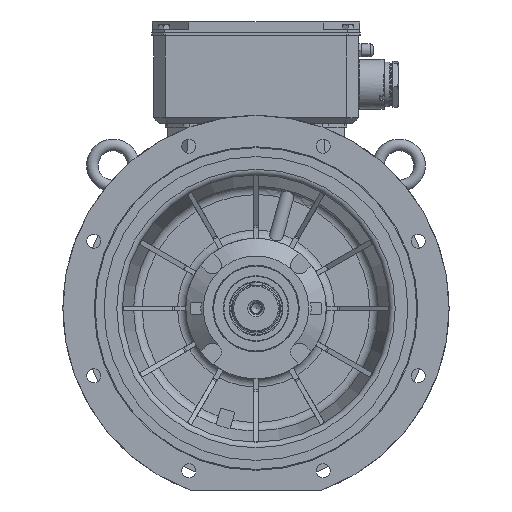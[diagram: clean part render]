
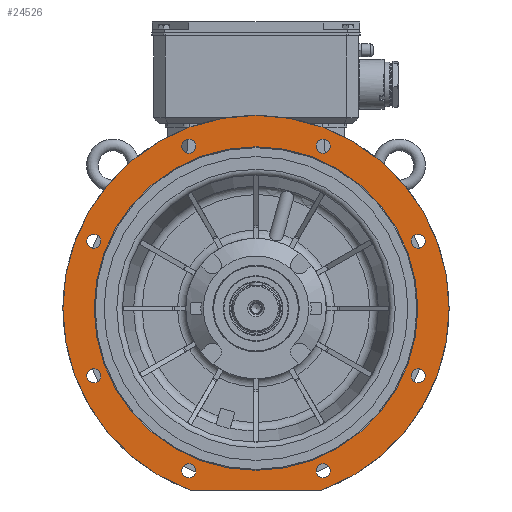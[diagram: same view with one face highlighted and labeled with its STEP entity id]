
A CAD part, front view. The second image highlights one B-rep face of the part: STEP entity #24526.
In plain terms, the highlighted planar face has unit normal (0, -1, 0).
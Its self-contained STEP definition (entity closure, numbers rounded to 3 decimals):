
#2150=LINE('',#50525,#4184);
#4184=VECTOR('',#41520,1000.);
#9266=ORIENTED_EDGE('',*,*,#14724,.F.);
#9267=ORIENTED_EDGE('',*,*,#14725,.F.);
#9268=ORIENTED_EDGE('',*,*,#14726,.F.);
#9269=ORIENTED_EDGE('',*,*,#14727,.F.);
#9270=ORIENTED_EDGE('',*,*,#14728,.F.);
#9271=ORIENTED_EDGE('',*,*,#14729,.F.);
#9272=ORIENTED_EDGE('',*,*,#14730,.F.);
#9273=ORIENTED_EDGE('',*,*,#14731,.F.);
#9274=ORIENTED_EDGE('',*,*,#14723,.F.);
#9275=ORIENTED_EDGE('',*,*,#14732,.T.);
#9276=ORIENTED_EDGE('',*,*,#14733,.F.);
#9277=ORIENTED_EDGE('',*,*,#14734,.T.);
#9278=ORIENTED_EDGE('',*,*,#14735,.F.);
#14723=EDGE_CURVE('',#17649,#17649,#19132,.T.);
#14724=EDGE_CURVE('',#17650,#17650,#19133,.T.);
#14725=EDGE_CURVE('',#17651,#17651,#19134,.T.);
#14726=EDGE_CURVE('',#17652,#17652,#19135,.T.);
#14727=EDGE_CURVE('',#17653,#17653,#19136,.T.);
#14728=EDGE_CURVE('',#17654,#17654,#19137,.T.);
#14729=EDGE_CURVE('',#17655,#17655,#19138,.T.);
#14730=EDGE_CURVE('',#17656,#17656,#19139,.T.);
#14731=EDGE_CURVE('',#17657,#17657,#19140,.T.);
#14732=EDGE_CURVE('',#17658,#17659,#19141,.F.);
#14733=EDGE_CURVE('',#17660,#17659,#2150,.T.);
#14734=EDGE_CURVE('',#17660,#17661,#19142,.F.);
#14735=EDGE_CURVE('',#17658,#17661,#19143,.T.);
#17649=VERTEX_POINT('',#50504);
#17650=VERTEX_POINT('',#50507);
#17651=VERTEX_POINT('',#50509);
#17652=VERTEX_POINT('',#50511);
#17653=VERTEX_POINT('',#50513);
#17654=VERTEX_POINT('',#50515);
#17655=VERTEX_POINT('',#50517);
#17656=VERTEX_POINT('',#50519);
#17657=VERTEX_POINT('',#50521);
#17658=VERTEX_POINT('',#50523);
#17659=VERTEX_POINT('',#50524);
#17660=VERTEX_POINT('',#50526);
#17661=VERTEX_POINT('',#50528);
#19132=CIRCLE('',#36384,276.4);
#19133=CIRCLE('',#36386,12.);
#19134=CIRCLE('',#36387,12.);
#19135=CIRCLE('',#36388,12.);
#19136=CIRCLE('',#36389,12.);
#19137=CIRCLE('',#36390,12.);
#19138=CIRCLE('',#36391,12.);
#19139=CIRCLE('',#36392,12.);
#19140=CIRCLE('',#36393,12.);
#19141=CIRCLE('',#36394,3.);
#19142=CIRCLE('',#36395,3.);
#19143=CIRCLE('',#36396,330.);
#20428=EDGE_LOOP('',(#9266));
#20429=EDGE_LOOP('',(#9267));
#20430=EDGE_LOOP('',(#9268));
#20431=EDGE_LOOP('',(#9269));
#20432=EDGE_LOOP('',(#9270));
#20433=EDGE_LOOP('',(#9271));
#20434=EDGE_LOOP('',(#9272));
#20435=EDGE_LOOP('',(#9273));
#20436=EDGE_LOOP('',(#9274));
#20437=EDGE_LOOP('',(#9275,#9276,#9277,#9278));
#22073=FACE_BOUND('',#20428,.T.);
#22074=FACE_BOUND('',#20429,.T.);
#22075=FACE_BOUND('',#20430,.T.);
#22076=FACE_BOUND('',#20431,.T.);
#22077=FACE_BOUND('',#20432,.T.);
#22078=FACE_BOUND('',#20433,.T.);
#22079=FACE_BOUND('',#20434,.T.);
#22080=FACE_BOUND('',#20435,.T.);
#22081=FACE_BOUND('',#20436,.T.);
#22082=FACE_BOUND('',#20437,.T.);
#23420=PLANE('',#36385);
#24526=ADVANCED_FACE('',(#22073,#22074,#22075,#22076,#22077,#22078,#22079,
#22080,#22081,#22082),#23420,.F.);
#36384=AXIS2_PLACEMENT_3D('',#50503,#41498,#41499);
#36385=AXIS2_PLACEMENT_3D('',#50505,#41500,#41501);
#36386=AXIS2_PLACEMENT_3D('',#50506,#41502,#41503);
#36387=AXIS2_PLACEMENT_3D('',#50508,#41504,#41505);
#36388=AXIS2_PLACEMENT_3D('',#50510,#41506,#41507);
#36389=AXIS2_PLACEMENT_3D('',#50512,#41508,#41509);
#36390=AXIS2_PLACEMENT_3D('',#50514,#41510,#41511);
#36391=AXIS2_PLACEMENT_3D('',#50516,#41512,#41513);
#36392=AXIS2_PLACEMENT_3D('',#50518,#41514,#41515);
#36393=AXIS2_PLACEMENT_3D('',#50520,#41516,#41517);
#36394=AXIS2_PLACEMENT_3D('',#50522,#41518,#41519);
#36395=AXIS2_PLACEMENT_3D('',#50527,#41521,#41522);
#36396=AXIS2_PLACEMENT_3D('',#50529,#41523,#41524);
#41498=DIRECTION('',(0.,-1.,0.));
#41499=DIRECTION('',(0.,0.,-1.));
#41500=DIRECTION('',(0.,1.,0.));
#41501=DIRECTION('',(0.,0.,1.));
#41502=DIRECTION('',(0.,-1.,0.));
#41503=DIRECTION('',(1.,0.,0.));
#41504=DIRECTION('',(0.,-1.,0.));
#41505=DIRECTION('',(1.,0.,0.));
#41506=DIRECTION('',(0.,-1.,0.));
#41507=DIRECTION('',(1.,0.,0.));
#41508=DIRECTION('',(0.,-1.,0.));
#41509=DIRECTION('',(1.,0.,0.));
#41510=DIRECTION('',(0.,-1.,0.));
#41511=DIRECTION('',(1.,0.,0.));
#41512=DIRECTION('',(0.,-1.,0.));
#41513=DIRECTION('',(1.,0.,0.));
#41514=DIRECTION('',(0.,-1.,0.));
#41515=DIRECTION('',(1.,0.,0.));
#41516=DIRECTION('',(0.,-1.,0.));
#41517=DIRECTION('',(1.,0.,0.));
#41518=DIRECTION('',(0.,1.,0.));
#41519=DIRECTION('',(0.,0.,1.));
#41520=DIRECTION('',(-1.,0.,0.));
#41521=DIRECTION('',(0.,1.,0.));
#41522=DIRECTION('',(0.,0.,1.));
#41523=DIRECTION('',(0.,1.,0.));
#41524=DIRECTION('',(0.,0.,1.));
#50503=CARTESIAN_POINT('',(0.,-99.997,0.));
#50504=CARTESIAN_POINT('',(0.,-99.997,-276.4));
#50505=CARTESIAN_POINT('',(0.,-99.997,276.4));
#50506=CARTESIAN_POINT('',(-277.164,-99.997,114.805));
#50507=CARTESIAN_POINT('',(-265.164,-99.997,114.805));
#50508=CARTESIAN_POINT('',(-277.164,-99.997,-114.805));
#50509=CARTESIAN_POINT('',(-265.164,-99.997,-114.805));
#50510=CARTESIAN_POINT('',(-114.805,-99.997,-277.164));
#50511=CARTESIAN_POINT('',(-102.805,-99.997,-277.164));
#50512=CARTESIAN_POINT('',(114.805,-99.997,-277.164));
#50513=CARTESIAN_POINT('',(126.805,-99.997,-277.164));
#50514=CARTESIAN_POINT('',(277.164,-99.997,-114.805));
#50515=CARTESIAN_POINT('',(289.164,-99.997,-114.805));
#50516=CARTESIAN_POINT('',(277.164,-99.997,114.805));
#50517=CARTESIAN_POINT('',(289.164,-99.997,114.805));
#50518=CARTESIAN_POINT('',(114.805,-99.997,277.164));
#50519=CARTESIAN_POINT('',(126.805,-99.997,277.164));
#50520=CARTESIAN_POINT('',(-114.805,-99.997,277.164));
#50521=CARTESIAN_POINT('',(-102.805,-99.997,277.164));
#50522=CARTESIAN_POINT('',(-112.606,-99.997,-307.));
#50523=CARTESIAN_POINT('',(-113.639,-99.997,-309.817));
#50524=CARTESIAN_POINT('',(-112.606,-99.997,-310.));
#50525=CARTESIAN_POINT('',(-113.137,-99.997,-310.));
#50526=CARTESIAN_POINT('',(112.606,-99.997,-310.));
#50527=CARTESIAN_POINT('',(112.606,-99.997,-307.));
#50528=CARTESIAN_POINT('',(113.639,-99.997,-309.817));
#50529=CARTESIAN_POINT('',(0.,-99.997,0.));
